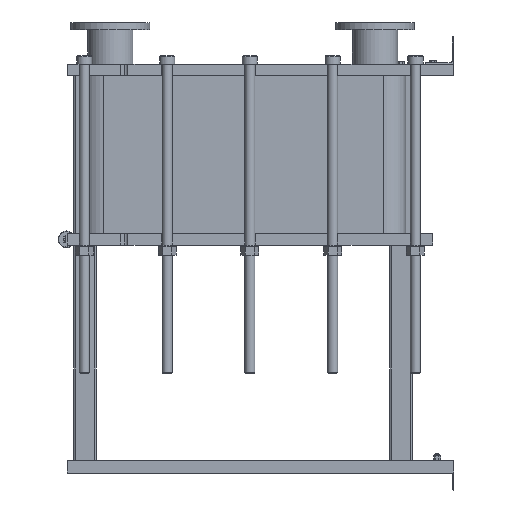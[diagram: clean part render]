
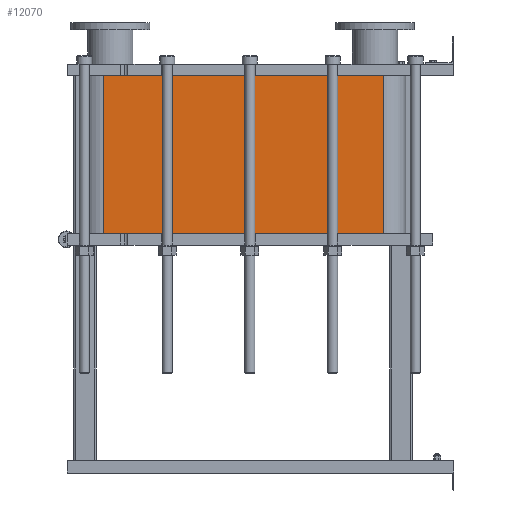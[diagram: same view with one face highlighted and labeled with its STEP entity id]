
A CAD part, left-side view. The second image highlights one B-rep face of the part: STEP entity #12070.
In plain terms, the highlighted planar face has unit normal (-1, 0, 0).
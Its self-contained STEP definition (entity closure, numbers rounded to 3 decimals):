
#1064=LINE('',#21140,#2164);
#1065=LINE('',#21144,#2165);
#1066=LINE('',#21146,#2166);
#1067=LINE('',#21147,#2167);
#2164=VECTOR('',#15790,10.);
#2165=VECTOR('',#15795,10.);
#2166=VECTOR('',#15796,10.);
#2167=VECTOR('',#15797,10.);
#3304=FACE_OUTER_BOUND('',#4091,.T.);
#4091=EDGE_LOOP('',(#9793,#9794,#9795,#9796));
#5677=VERTEX_POINT('',#21137);
#5678=VERTEX_POINT('',#21139);
#5679=VERTEX_POINT('',#21143);
#5680=VERTEX_POINT('',#21145);
#7118=EDGE_CURVE('',#5678,#5677,#1064,.T.);
#7120=EDGE_CURVE('',#5677,#5679,#1065,.T.);
#7121=EDGE_CURVE('',#5680,#5679,#1066,.T.);
#7122=EDGE_CURVE('',#5680,#5678,#1067,.T.);
#9793=ORIENTED_EDGE('',*,*,#7120,.T.);
#9794=ORIENTED_EDGE('',*,*,#7121,.F.);
#9795=ORIENTED_EDGE('',*,*,#7122,.T.);
#9796=ORIENTED_EDGE('',*,*,#7118,.T.);
#11441=PLANE('',#13191);
#12070=ADVANCED_FACE('',(#3304),#11441,.T.);
#13191=AXIS2_PLACEMENT_3D('',#21142,#15793,#15794);
#15790=DIRECTION('',(0.,0.,-1.));
#15793=DIRECTION('center_axis',(-1.,0.,0.));
#15794=DIRECTION('ref_axis',(0.,1.,0.));
#15795=DIRECTION('',(0.,-1.,0.));
#15796=DIRECTION('',(0.,0.,-1.));
#15797=DIRECTION('',(0.,1.,0.));
#21137=CARTESIAN_POINT('',(-248.152,1243.818,-562.35));
#21139=CARTESIAN_POINT('',(-248.152,1243.818,0.));
#21140=CARTESIAN_POINT('',(-248.152,1243.818,0.));
#21142=CARTESIAN_POINT('Origin',(-248.152,251.818,0.));
#21143=CARTESIAN_POINT('',(-248.152,251.818,-562.35));
#21144=CARTESIAN_POINT('',(-248.152,499.818,-562.35));
#21145=CARTESIAN_POINT('',(-248.152,251.818,0.));
#21146=CARTESIAN_POINT('',(-248.152,251.818,0.));
#21147=CARTESIAN_POINT('',(-248.152,251.818,0.));
